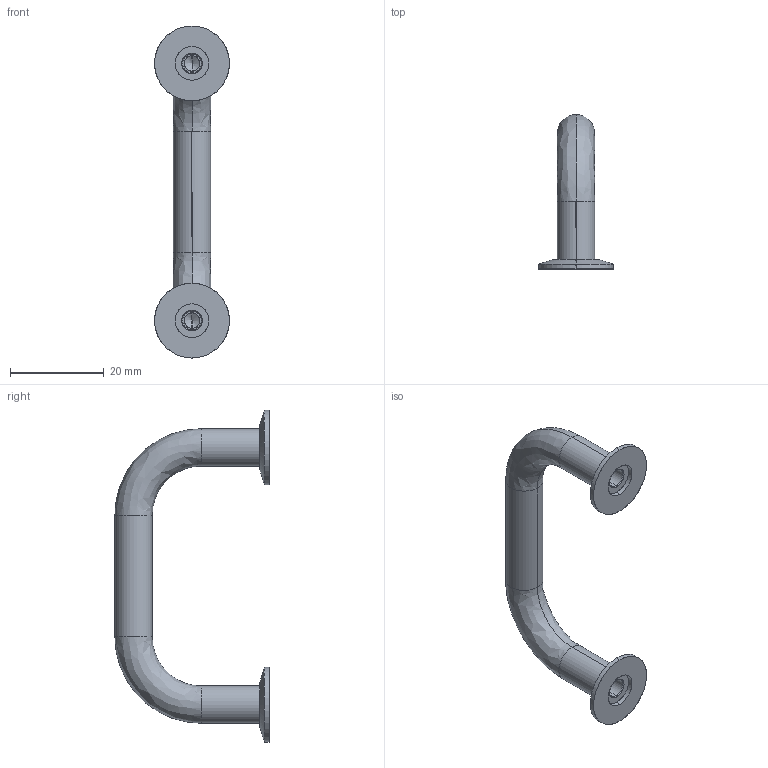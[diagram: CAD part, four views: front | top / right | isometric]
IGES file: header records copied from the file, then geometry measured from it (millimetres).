
Start section: SolidWorks IGES file using analytic representation for surfaces
Global section: file name: C:\Documents and Settings\IANO\Desktop\Temp File\Process pending\PCN pending\78700_v2\78700_v2_20170116_IGES\78700.W0105.igs; native system: SolidWorks 2009; preprocessor: SolidWorks 2009; author: IANO; date: 170310.095623; units: millimetre
Bounding box: 16 x 33 x 71 mm (x, y, z)
Surface area: 3615.5 mm2 (no closed solid volume)
Topology: 0 solids, 0 shells, 52 faces, 808 edges, 804 vertices
Faces by surface type: revolution 38, bspline 14
